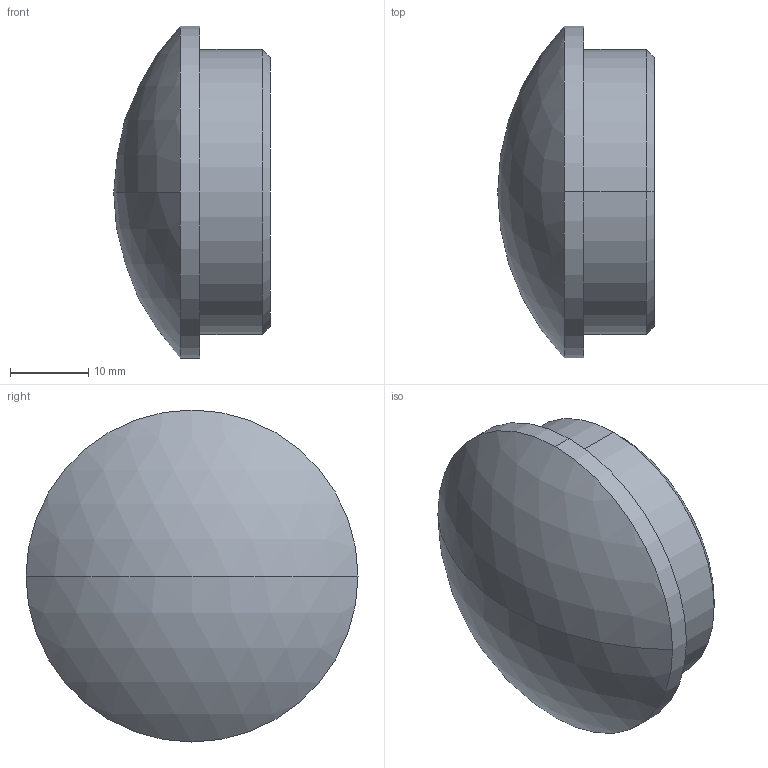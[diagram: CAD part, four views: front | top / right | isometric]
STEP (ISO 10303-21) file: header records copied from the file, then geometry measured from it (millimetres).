
FILE_DESCRIPTION (( 'STEP AP203' ), '1' );
FILE_NAME ('3D_GR1392_DN42.4x3_18380255.STEP', '2024-09-21T10:21:48', ( '' ), ( '' ), 'SwSTEP 2.0', 'SolidWorks 2024', '' );
FILE_SCHEMA (( 'CONFIG_CONTROL_DESIGN' ));
Length unit declared in the file: millimetre
Products named in the file (1): 3D_GR1392_DN42.4x3_18380255
Bounding box: 20 x 42.4 x 42.4 mm (x, y, z)
Volume: 19161.7 mm3; surface area: 4344.8 mm2
Topology: 1 solids, 1 shells, 10 faces, 20 edges, 13 vertices
Faces by surface type: cylinder 4, cone 2, sphere 2, plane 2
Entity records: 347 total; most frequent: DIRECTION 56, CARTESIAN_POINT 44, ORIENTED_EDGE 40, AXIS2_PLACEMENT_3D 25, EDGE_CURVE 20, CIRCLE 14, VERTEX_POINT 13, EDGE_LOOP 11
